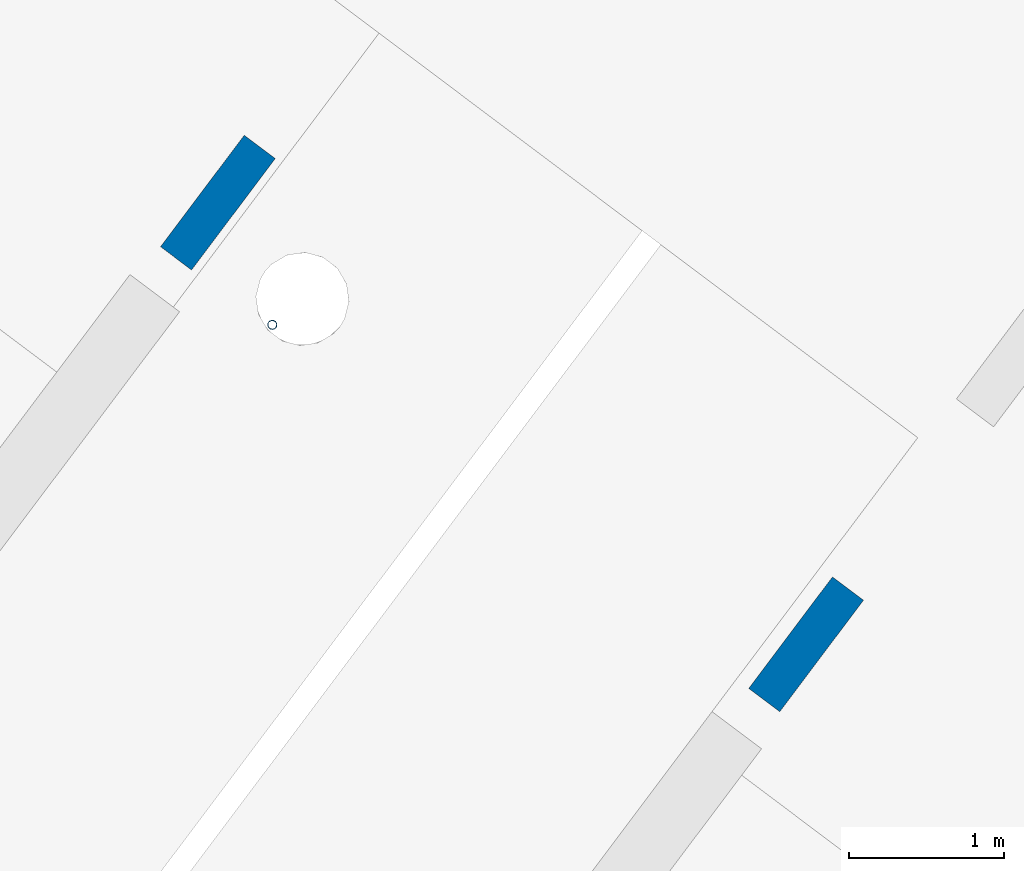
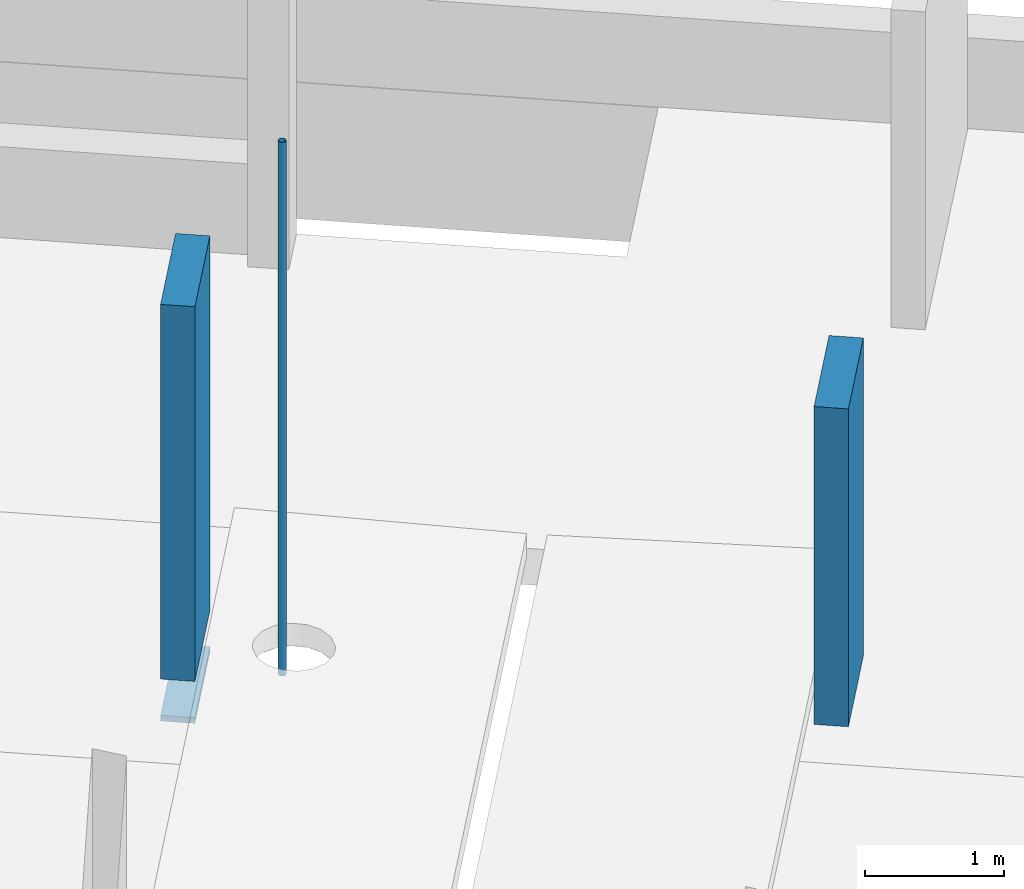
# One storey, part 14 of 24: 3 columns.
"""IFC2X3 building model written with IfcOpenShell, lengths in metres."""

from ifc_helpers import new_model, entity, si_unit, converted_unit, derived_unit, direction, frame, frame_2d, origin, origin_2d_with_axis, place, context, subcontext, project, spatial, rectangle, hollow_circle, extrude, source, transform, mapped, material, type_object, type_shapes, element, save


model = new_model("IFC2X3")

# Units and contexts
model_context = context("Model", 3, precision=1e-05, world=origin(), true_north=direction((6.123031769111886e-17, 1.0)))
body_context = subcontext(model_context, "Body", "Model", "MODEL_VIEW")
ifc_project = project(units=[si_unit("LENGTHUNIT", "METRE"), si_unit("AREAUNIT", "SQUARE_METRE"), si_unit("VOLUMEUNIT", "CUBIC_METRE"), converted_unit("PLANEANGLEUNIT", "DEGREE", entity("IfcRatioMeasure", 0.017453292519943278), si_unit("PLANEANGLEUNIT", "RADIAN"), dimensions=[0, 0, 0, 0, 0, 0, 0]), si_unit("MASSUNIT", "GRAM", prefix="KILO"), derived_unit("MASSDENSITYUNIT", [(si_unit("MASSUNIT", "GRAM", prefix="KILO"), 1), (si_unit("LENGTHUNIT", "METRE"), -3)]), derived_unit("IONCONCENTRATIONUNIT", [(si_unit("MASSUNIT", "GRAM", prefix="KILO"), 1), (si_unit("LENGTHUNIT", "METRE"), -3)]), derived_unit("MOMENTOFINERTIAUNIT", [(si_unit("LENGTHUNIT", "METRE"), 4)]), si_unit("TIMEUNIT", "SECOND"), si_unit("FREQUENCYUNIT", "HERTZ"), si_unit("THERMODYNAMICTEMPERATUREUNIT", "DEGREE_CELSIUS"), derived_unit("THERMALTRANSMITTANCEUNIT", [(si_unit("MASSUNIT", "GRAM", prefix="KILO"), 1), (si_unit("THERMODYNAMICTEMPERATUREUNIT", "KELVIN"), -1), (si_unit("TIMEUNIT", "SECOND"), -3)]), derived_unit("THERMALCONDUCTANCEUNIT", [(si_unit("MASSUNIT", "GRAM", prefix="KILO"), 1), (si_unit("THERMODYNAMICTEMPERATUREUNIT", "KELVIN"), -1), (si_unit("TIMEUNIT", "SECOND"), -3), (si_unit("LENGTHUNIT", "METRE"), 1)]), derived_unit("VOLUMETRICFLOWRATEUNIT", [(si_unit("LENGTHUNIT", "METRE"), 3), (si_unit("TIMEUNIT", "SECOND"), -1)]), derived_unit("MASSFLOWRATEUNIT", [(si_unit("MASSUNIT", "GRAM", prefix="KILO"), 1), (si_unit("TIMEUNIT", "SECOND"), -1)]), derived_unit("ROTATIONALFREQUENCYUNIT", [(si_unit("TIMEUNIT", "SECOND"), -1)]), si_unit("ELECTRICCURRENTUNIT", "AMPERE"), si_unit("ELECTRICVOLTAGEUNIT", "VOLT"), si_unit("POWERUNIT", "WATT"), si_unit("FORCEUNIT", "NEWTON", prefix="KILO"), si_unit("ILLUMINANCEUNIT", "LUX"), si_unit("LUMINOUSFLUXUNIT", "LUMEN"), si_unit("LUMINOUSINTENSITYUNIT", "CANDELA"), derived_unit("USERDEFINED", [(si_unit("MASSUNIT", "GRAM", prefix="KILO"), -1), (si_unit("LENGTHUNIT", "METRE"), -2), (si_unit("TIMEUNIT", "SECOND"), 3), (si_unit("LUMINOUSFLUXUNIT", "LUMEN"), 1)]), derived_unit("USERDEFINED", [(si_unit("MASSUNIT", "GRAM", prefix="KILO"), 1), (si_unit("TIMEUNIT", "SECOND"), -3), (si_unit("LENGTHUNIT", "METRE"), 3), (si_unit("ELECTRICCURRENTUNIT", "AMPERE"), -2)]), derived_unit("SOUNDPOWERUNIT", [(si_unit("MASSUNIT", "GRAM", prefix="KILO"), 1), (si_unit("TIMEUNIT", "SECOND"), -3), (si_unit("LENGTHUNIT", "METRE"), 2)]), derived_unit("SOUNDPRESSUREUNIT", [(si_unit("MASSUNIT", "GRAM", prefix="KILO"), 1), (si_unit("LENGTHUNIT", "METRE"), -1), (si_unit("TIMEUNIT", "SECOND"), -2)]), derived_unit("LINEARVELOCITYUNIT", [(si_unit("LENGTHUNIT", "METRE"), 1), (si_unit("TIMEUNIT", "SECOND"), -1)]), si_unit("PRESSUREUNIT", "PASCAL"), derived_unit("USERDEFINED", [(si_unit("MASSUNIT", "GRAM", prefix="KILO"), 1), (si_unit("LENGTHUNIT", "METRE"), -2), (si_unit("TIMEUNIT", "SECOND"), -2)]), derived_unit("LINEARFORCEUNIT", [(si_unit("MASSUNIT", "GRAM", prefix="KILO"), 1), (si_unit("TIMEUNIT", "SECOND"), -2)]), derived_unit("PLANARFORCEUNIT", [(si_unit("MASSUNIT", "GRAM", prefix="KILO"), 1), (si_unit("LENGTHUNIT", "METRE"), -1), (si_unit("TIMEUNIT", "SECOND"), -2)]), derived_unit("SPECIFICHEATCAPACITYUNIT", [(si_unit("THERMODYNAMICTEMPERATUREUNIT", "KELVIN"), -1), (si_unit("LENGTHUNIT", "METRE"), 2), (si_unit("TIMEUNIT", "SECOND"), -2)]), derived_unit("HEATINGVALUEUNIT", [(si_unit("LENGTHUNIT", "METRE"), 2), (si_unit("TIMEUNIT", "SECOND"), -2)]), derived_unit("VAPORPERMEABILITYUNIT", [(si_unit("LENGTHUNIT", "METRE"), -1), (si_unit("TIMEUNIT", "SECOND"), 1)]), derived_unit("DYNAMICVISCOSITYUNIT", [(si_unit("MASSUNIT", "GRAM", prefix="KILO"), 1), (si_unit("TIMEUNIT", "SECOND"), -1), (si_unit("LENGTHUNIT", "METRE"), -1)]), derived_unit("THERMALEXPANSIONCOEFFICIENTUNIT", [(si_unit("THERMODYNAMICTEMPERATUREUNIT", "KELVIN"), -1)]), derived_unit("MODULUSOFELASTICITYUNIT", [(si_unit("MASSUNIT", "GRAM", prefix="KILO"), 1), (si_unit("LENGTHUNIT", "METRE"), -1), (si_unit("TIMEUNIT", "SECOND"), -2)]), derived_unit("ISOTHERMALMOISTURECAPACITYUNIT", [(si_unit("LENGTHUNIT", "METRE"), 3), (si_unit("MASSUNIT", "GRAM", prefix="KILO"), -1)]), derived_unit("MOISTUREDIFFUSIVITYUNIT", [(si_unit("TIMEUNIT", "SECOND"), -1), (si_unit("LENGTHUNIT", "METRE"), 2)])], contexts=[model_context])

# Site, building, storey
site_placement = place(None, origin())
site = spatial("IfcSite", under=ifc_project, at=site_placement, Name="Default", CompositionType="ELEMENT")
building_placement = place(site_placement, frame((0.0, 0.0, 235.0), z_axis=(0.0, 0.0, 1.0), x_axis=(-0.7996477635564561, 0.6004693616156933, 0.0)))
building = spatial("IfcBuilding", under=site, at=building_placement, CompositionType="ELEMENT")
storey_placement = place(building_placement, origin())
storey = spatial("IfcBuildingStorey", under=building, at=storey_placement, Name="P0- Escola", CompositionType="ELEMENT", Elevation=0.0)

# Columns
ifc_material_1 = material(Name="_Formigó- T1- STR")
column_type_1 = type_object("IfcColumnType", Name="STR- P- Formigó- Rectangular- T1:25x90cm", PredefinedType="COLUMN", material=ifc_material_1)
shared_shape_1 = source(origin(), body_context, "Body", "SweptSolid", [
    extrude(rectangle(XDim=0.899999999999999, YDim=0.2499999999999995, at=origin_2d_with_axis()), frame((23.77014768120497, -34.91519175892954, -0.2), z_axis=(0.0, 0.0, 1.0), x_axis=(0.0, -1.0, 0.0)), (0.0, 0.0, 1.0), 2.8000000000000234),
])
type_shapes(column_type_1, [shared_shape_1])
column_1_placement = place(storey_placement, origin())
element("IfcColumn", 1, at=column_1_placement, inside=storey, type_object=column_type_1, material=ifc_material_1, Name="STR- P- Formigó- Rectangular- T1:25x90cm", ObjectType="STR- P- Formigó- Rectangular- T1:25x90cm", context=body_context, shape_type="MappedRepresentation", body=[
    mapped(shared_shape_1, transform((0.0, 0.0, 0.0), scale=1.0)),
])
column_type_2 = type_object("IfcColumnType", Name="STR- P- Formigó- Rectangular- T1:25x90cm", PredefinedType="COLUMN", material=ifc_material_1)
shared_shape_2 = source(origin(), body_context, "Body", "SweptSolid", [
    extrude(rectangle(XDim=0.899999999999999, YDim=0.2499999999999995, at=origin_2d_with_axis()), frame((28.520147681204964, -34.91519175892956, -0.57), z_axis=(0.0, 0.0, 1.0), x_axis=(0.0, -1.0, 0.0)), (0.0, 0.0, 1.0), 0.05000000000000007),
    extrude(rectangle(XDim=0.899999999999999, YDim=0.2499999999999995, at=origin_2d_with_axis()), frame((28.520147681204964, -34.91519175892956, -0.2), z_axis=(0.0, 0.0, 1.0), x_axis=(0.0, -1.0, 0.0)), (0.0, 0.0, 1.0), 3.3000000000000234),
])
type_shapes(column_type_2, [shared_shape_2])
column_2_placement = place(storey_placement, origin())
element("IfcColumn", 2, at=column_2_placement, inside=storey, type_object=column_type_2, material=ifc_material_1, Name="STR- P- Formigó- Rectangular- T1:25x90cm", ObjectType="STR- P- Formigó- Rectangular- T1:25x90cm", context=body_context, shape_type="MappedRepresentation", body=[
    mapped(shared_shape_2, transform((0.0, 0.0, 0.0), scale=1.0)),
])
ifc_material_2 = material(Name="Metal - Acero - 345 MPa")
column_type_3 = type_object("IfcColumnType", Name="STR- P- Acer- CHS- Circular- T1:60.3 x 3CHS", PredefinedType="COLUMN", material=ifc_material_2)
shared_shape_3 = source(origin(), body_context, "Body", "SweptSolid", [
    extrude(hollow_circle(Radius=0.03014999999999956, WallThickness=0.0029999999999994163, at=frame_2d((-4.81877898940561e-19, 4.854464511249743e-17), x_axis=(1.0, 0.0))), frame((0.0, 0.0, -0.1)), (0.0, 0.0, 1.0), 4.700000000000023),
])
type_shapes(column_type_3, [shared_shape_3])
column_3_placement = place(storey_placement, frame((27.765147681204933, -34.49519175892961, 0.0)))
element("IfcColumn", 3, at=column_3_placement, inside=storey, type_object=column_type_3, material=ifc_material_2, Name="STR- P- Acer- CHS- Circular- T1:60.3 x 3CHS", ObjectType="STR- P- Acer- CHS- Circular- T1:60.3 x 3CHS", context=body_context, shape_type="MappedRepresentation", body=[
    mapped(shared_shape_3, transform((0.0, 0.0, 0.0), scale=1.0)),
])

save(model, "model.ifc")
